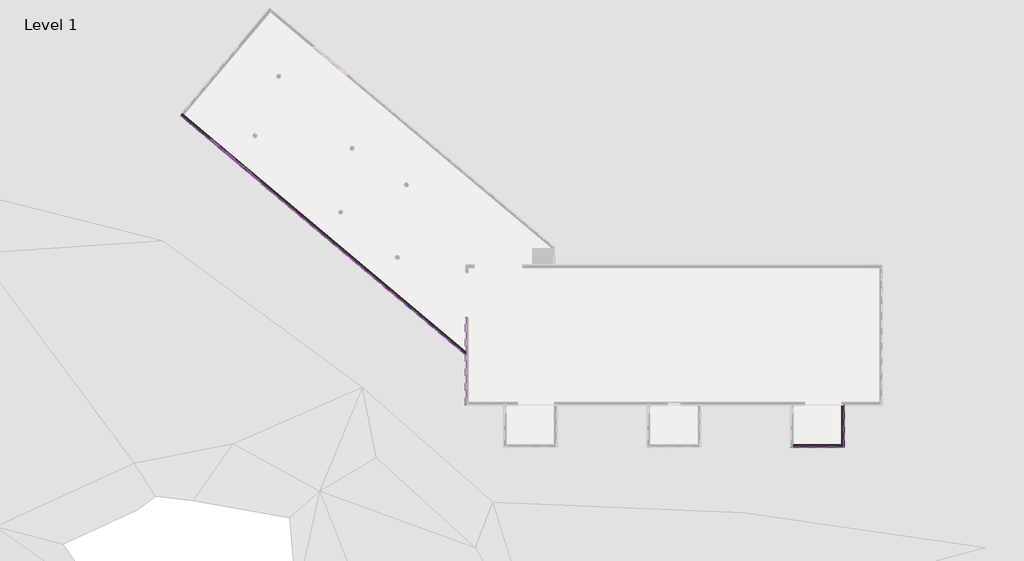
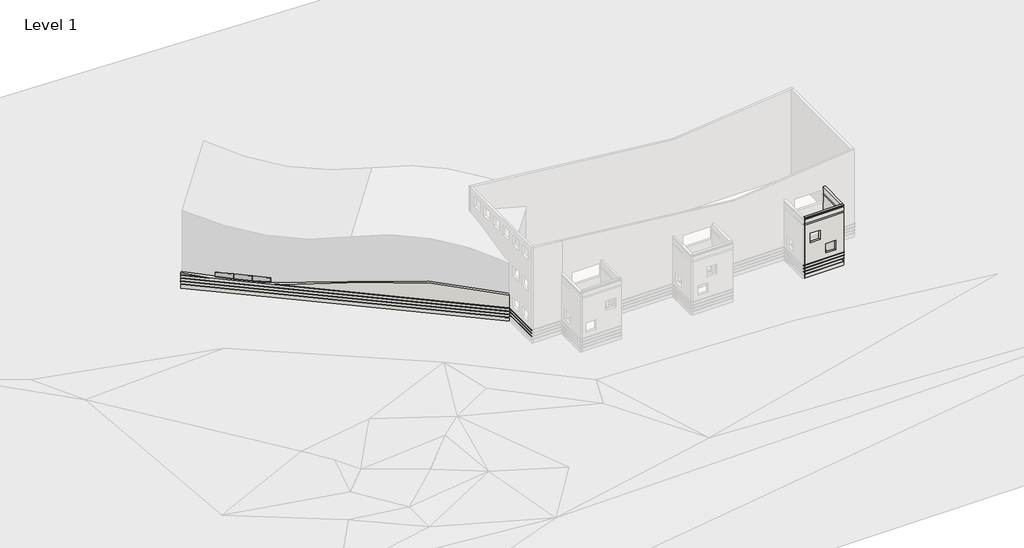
# One storey, part 3 of 6: 12 proxies, 5 members, 3 plates, 3 walls.
"""IFC4 building model written with IfcOpenShell, lengths in millimetres."""

from ifc_helpers import new_model, si_unit, frame, origin, place, context, project, spatial, polyline, circle_curve, ellipse_curve, outline, extrude, faceted_brep, transform, mapped, element, save
from ifc_brep_helpers import plane_surface, cylinder_surface, revolved_surface, advanced_brep
from components import member_a296c6ee, member_3cb31c08, member_20368c7e, member_728934ac, member_046d3a24, system_panel_glazed_c666a364, system_panel_glazed_ca24624d, system_panel_glazed_4385c969

model = new_model("IFC4")

# Units and contexts
model_context = context("Model", 3, world=origin())
ifc_project = project(units=[si_unit("LENGTHUNIT", "METRE", prefix="MILLI")], contexts=[model_context])

# Site, building, storey
site = spatial("IfcSite", under=ifc_project)
building = spatial("IfcBuilding", under=site)
storey = spatial("IfcBuildingStorey", under=building, Name="Level 1", Elevation=0.0)

# Proxies
placement = place(None, origin())
element("IfcBuildingElementProxy", 1, Name="Reveals", at=placement, inside=storey, context=model_context, shape_type="SweptSolid", body=[
    extrude(outline(polyline([(-18104.1386573, -9404.5629393), (-18196.2136573, -9496.6379393), (-18196.2136573, 3243.0495607), (-18104.1386573, 3243.0495607), (-18104.1386573, -9404.5629393)])), frame((0.0, 0.0, 1625.6), z_axis=(0.0, 0.0, 1.0), x_axis=(1.0, 0.0, 0.0)), (0.0, 0.0, 1.0), 67.7333333),
    extrude(outline(polyline([(-18104.1386573, 9643.8495607), (-18196.2136573, 9643.8495607), (-18196.2136573, 10801.1370607), (-18104.1386573, 10709.0620607), (-18104.1386573, 9643.8495607)])), frame((0.0, 0.0, 1625.6), z_axis=(0.0, 0.0, 1.0), x_axis=(1.0, 0.0, 0.0)), (0.0, 0.0, 1.0), 67.7333333),
])
element("IfcBuildingElementProxy", 2, Name="Reveals", at=placement, inside=storey, context=model_context, shape_type="SweptSolid", body=[
    extrude(outline(polyline([(-18104.1386573, -9404.5629393), (-18196.2136573, -9496.6379393), (-18196.2136573, 3243.0495607), (-18104.1386573, 3243.0495607), (-18104.1386573, -9404.5629393)])), frame((0.0, 0.0, 2235.2), z_axis=(0.0, 0.0, 1.0), x_axis=(1.0, 0.0, 0.0)), (0.0, 0.0, 1.0), 67.7333333),
    extrude(outline(polyline([(-18104.1386573, 9643.8495607), (-18196.2136573, 9643.8495607), (-18196.2136573, 10801.1370607), (-18104.1386573, 10709.0620607), (-18104.1386573, 9643.8495607)])), frame((0.0, 0.0, 2235.2), z_axis=(0.0, 0.0, 1.0), x_axis=(1.0, 0.0, 0.0)), (0.0, 0.0, 1.0), 67.7333333),
])
element("IfcBuildingElementProxy", 3, Name="Reveals", at=placement, inside=storey, context=model_context, shape_type="SweptSolid", body=[
    extrude(outline(polyline([(-18104.1386573, -9404.5629393), (-18196.2136573, -9496.6379393), (-18196.2136573, 3243.0495607), (-18104.1386573, 3243.0495607), (-18104.1386573, -9404.5629393)])), frame((0.0, 0.0, 2844.8), z_axis=(0.0, 0.0, 1.0), x_axis=(1.0, 0.0, 0.0)), (0.0, 0.0, 1.0), 67.7333333),
    extrude(outline(polyline([(-18104.1386573, 9643.8495607), (-18196.2136573, 9643.8495607), (-18196.2136573, 10801.1370607), (-18104.1386573, 10709.0620607), (-18104.1386573, 9643.8495607)])), frame((0.0, 0.0, 2844.8), z_axis=(0.0, 0.0, 1.0), x_axis=(1.0, 0.0, 0.0)), (0.0, 0.0, 1.0), 67.7333333),
])
element("IfcBuildingElementProxy", 4, Name="Reveals", at=placement, inside=storey, context=model_context, shape_type="SweptSolid", body=[
    extrude(outline(polyline([(28742.9863427, -15592.6379393), (28835.0613427, -15500.5629393), (36451.8863427, -15500.5629393), (36543.9613427, -15592.6379393), (28742.9863427, -15592.6379393)])), frame((0.0, 0.0, 1625.6), z_axis=(0.0, 0.0, 1.0), x_axis=(1.0, 0.0, 0.0)), (0.0, 0.0, 1.0), 67.7333333),
])
element("IfcBuildingElementProxy", 5, Name="Reveals", at=placement, inside=storey, context=model_context, shape_type="SweptSolid", body=[
    extrude(outline(polyline([(28742.9863427, -15592.6379393), (28835.0613427, -15500.5629393), (36451.8863427, -15500.5629393), (36543.9613427, -15592.6379393), (28742.9863427, -15592.6379393)])), frame((0.0, 0.0, 2235.2), z_axis=(0.0, 0.0, 1.0), x_axis=(1.0, 0.0, 0.0)), (0.0, 0.0, 1.0), 67.7333333),
])
element("IfcBuildingElementProxy", 6, Name="Reveals", at=placement, inside=storey, context=model_context, shape_type="SweptSolid", body=[
    extrude(outline(polyline([(28742.9863427, -15592.6379393), (28835.0613427, -15500.5629393), (36451.8863427, -15500.5629393), (36543.9613427, -15592.6379393), (28742.9863427, -15592.6379393)])), frame((0.0, 0.0, 2844.8), z_axis=(0.0, 0.0, 1.0), x_axis=(1.0, 0.0, 0.0)), (0.0, 0.0, 1.0), 67.7333333),
])
element("IfcBuildingElementProxy", 7, Name="Reveals", at=placement, inside=storey, context=model_context, shape_type="SweptSolid", body=[
    extrude(outline(polyline([(36543.9613427, -15592.6379393), (36451.8863427, -15500.5629393), (36451.8863427, -9429.9629393), (36543.9613427, -9429.9629393), (36543.9613427, -15592.6379393)])), frame((0.0, 0.0, 1625.6), z_axis=(0.0, 0.0, 1.0), x_axis=(1.0, 0.0, 0.0)), (0.0, 0.0, 1.0), 67.7333333),
])
element("IfcBuildingElementProxy", 8, Name="Reveals", at=placement, inside=storey, context=model_context, shape_type="SweptSolid", body=[
    extrude(outline(polyline([(36543.9613427, -15592.6379393), (36451.8863427, -15500.5629393), (36451.8863427, -9429.9629393), (36543.9613427, -9429.9629393), (36543.9613427, -15592.6379393)])), frame((0.0, 0.0, 2235.2), z_axis=(0.0, 0.0, 1.0), x_axis=(1.0, 0.0, 0.0)), (0.0, 0.0, 1.0), 67.7333333),
])
element("IfcBuildingElementProxy", 9, Name="Reveals", at=placement, inside=storey, context=model_context, shape_type="SweptSolid", body=[
    extrude(outline(polyline([(36543.9613427, -15592.6379393), (36451.8863427, -15500.5629393), (36451.8863427, -9429.9629393), (36543.9613427, -9429.9629393), (36543.9613427, -15592.6379393)])), frame((0.0, 0.0, 2844.8), z_axis=(0.0, 0.0, 1.0), x_axis=(1.0, 0.0, 0.0)), (0.0, 0.0, 1.0), 67.7333333),
])
element("IfcBuildingElementProxy", 10, Name="Reveals", at=placement, inside=storey, context=model_context, shape_type="SweptSolid", body=[
    extrude(outline(polyline([(-59471.3107285, 32380.2258286), (-59341.5925172, 32391.5747015), (-18113.211852, -2203.1443087), (-18172.3965212, -2273.6778508), (-59471.3107285, 32380.2258286)])), frame((0.0, 0.0, 1625.6), z_axis=(0.0, 0.0, 1.0), x_axis=(1.0, 0.0, 0.0)), (0.0, 0.0, 1.0), 67.7333333),
])
element("IfcBuildingElementProxy", 11, Name="Reveals", at=placement, inside=storey, context=model_context, shape_type="SweptSolid", body=[
    extrude(outline(polyline([(-59471.3107285, 32380.2258286), (-59341.5925172, 32391.5747015), (-18113.211852, -2203.1443087), (-18172.3965212, -2273.6778508), (-59471.3107285, 32380.2258286)])), frame((0.0, 0.0, 2235.2), z_axis=(0.0, 0.0, 1.0), x_axis=(1.0, 0.0, 0.0)), (0.0, 0.0, 1.0), 67.7333333),
])
element("IfcBuildingElementProxy", 12, Name="Reveals", at=placement, inside=storey, context=model_context, shape_type="SweptSolid", body=[
    extrude(outline(polyline([(-47637.676007, 22450.6272983), (-47578.4913379, 22521.1608404), (-18113.211852, -2203.1443087), (-18172.3965212, -2273.6778508), (-47637.676007, 22450.6272983)])), frame((0.0, 0.0, 2844.8), z_axis=(0.0, 0.0, 1.0), x_axis=(1.0, 0.0, 0.0)), (0.0, 0.0, 1.0), 67.7333333),
    extrude(outline(polyline([(-59471.3107285, 32380.2258286), (-59341.5925172, 32391.5747015), (-55808.9773834, 29427.3586456), (-55868.1620526, 29356.8251035), (-59471.3107285, 32380.2258286)])), frame((0.0, 0.0, 2844.8), z_axis=(0.0, 0.0, 1.0), x_axis=(1.0, 0.0, 0.0)), (0.0, 0.0, 1.0), 67.7333333),
])

# Members
member_shape = member_a296c6ee(model_context)
element("IfcMember", 13, ObjectType="Rectangular Mullion : 1.5\" x 2.5\" rectangular", at=placement, inside=storey, context=model_context, shape_type="MappedRepresentation", body=[
    mapped(member_shape, transform((-50290.4290331, 25018.486506, 3999.9444177), x_axis=(-0.76604444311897, 0.6427876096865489, 0.0), y_axis=(-0.6427876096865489, -0.76604444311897, 0.0), z_axis=(0.0, 0.0, 1.0))),
])
member_2_shape = member_3cb31c08(model_context)
element("IfcMember", 14, ObjectType="Rectangular Mullion : 1.5\" x 2.5\" rectangular", at=placement, inside=storey, context=model_context, shape_type="MappedRepresentation", body=[
    mapped(member_2_shape, transform((-52625.3324958, 26977.7031403, 3999.9444177), x_axis=(-0.76604444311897, 0.6427876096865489, 0.0), y_axis=(-0.6427876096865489, -0.76604444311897, 0.0), z_axis=(0.0, 0.0, 1.0))),
])
member_3_shape = member_20368c7e(model_context)
element("IfcMember", 15, ObjectType="Rectangular Mullion : 2.5\" x 5\" rectangular", at=placement, inside=storey, context=model_context, shape_type="MappedRepresentation", body=[
    mapped(member_3_shape, transform((-50290.4290331, 25018.486506, 2983.2122272), x_axis=(0.03160132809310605, -0.026516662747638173, -0.9991487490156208), y_axis=(-0.6427876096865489, -0.76604444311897, 0.0), z_axis=(-0.7653923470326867, 0.6422404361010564, -0.04125260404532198))),
])
member_4_shape = member_728934ac(model_context)
element("IfcMember", 16, ObjectType="Rectangular Mullion : 2.5\" x 5\" rectangular", at=placement, inside=storey, context=model_context, shape_type="MappedRepresentation", body=[
    mapped(member_4_shape, transform((-52625.3324958, 26977.7031403, 2976.7419634), x_axis=(0.0016261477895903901, -0.00136450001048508, -0.9999977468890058), y_axis=(-0.6427876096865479, -0.7660444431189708, 0.0), z_axis=(-0.766042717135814, 0.6427861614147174, -0.00212278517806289))),
])
member_5_shape = member_046d3a24(model_context)
element("IfcMember", 17, ObjectType="Rectangular Mullion : 2.5\" x 5\" rectangular", at=placement, inside=storey, context=model_context, shape_type="MappedRepresentation", body=[
    mapped(member_5_shape, transform((-54960.2359584, 28936.9197746, 3089.6167012), x_axis=(-0.028349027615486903, 0.023787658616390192, -0.9993150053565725), y_axis=(-0.6427876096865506, -0.7660444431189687, 0.0), z_axis=(-0.7655197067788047, 0.6423473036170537, 0.03700702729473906))),
])

# Plates
system_panel_glazed_shape = system_panel_glazed_c666a364(model_context)
element("IfcPlate", 18, ObjectType="System Panel : Glazed", at=placement, inside=storey, context=model_context, shape_type="MappedRepresentation", body=[
    mapped(system_panel_glazed_shape, transform((-49122.9773018, 24038.8781888, 3047.5528594), x_axis=(-0.76604444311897, 0.6427876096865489, 0.0), y_axis=(-0.6427876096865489, -0.76604444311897, 0.0), z_axis=(0.0, 0.0, 1.0))),
])
system_panel_glazed_2_shape = system_panel_glazed_ca24624d(model_context)
element("IfcPlate", 19, ObjectType="System Panel : Glazed", at=placement, inside=storey, context=model_context, shape_type="MappedRepresentation", body=[
    mapped(system_panel_glazed_2_shape, transform((-51457.8807644, 25998.0948231, 3040.2825456), x_axis=(-0.76604444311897, 0.6427876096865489, 0.0), y_axis=(-0.6427876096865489, -0.76604444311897, 0.0), z_axis=(0.0, 0.0, 1.0))),
])
system_panel_glazed_3_shape = system_panel_glazed_4385c969(model_context)
element("IfcPlate", 20, ObjectType="System Panel : Glazed", at=placement, inside=storey, context=model_context, shape_type="MappedRepresentation", body=[
    mapped(system_panel_glazed_3_shape, transform((-53792.7842271, 27957.3114575, 3040.9909575), x_axis=(-0.76604444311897, 0.6427876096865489, 0.0), y_axis=(-0.6427876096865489, -0.76604444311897, 0.0), z_axis=(0.0, 0.0, 1.0))),
])

# Walls
element("IfcWall", 21, ObjectType="Exterior - Brick and CMU on MTL. Stud", at=placement, inside=storey, context=model_context, shape_type="Brep", body=[
    faceted_brep([(36477.2863427, -15525.9629393, 12192.0), (29162.0863427, -15525.9629393, 12192.0), (29162.0863427, -15525.9629393, 11988.8), (36477.2863427, -15525.9629393, 11988.8), (36477.2863427, -15525.9629393, 11785.6), (29162.0863427, -15525.9629393, 11785.6), (29162.0863427, -15525.9629393, 11017.5344776), (36477.2863427, -15525.9629393, 11017.5344776), (29162.0863427, -15173.5379393, 12192.0), (36124.8613427, -15173.5379393, 12192.0), (36477.2863427, -15173.5379393, 12192.0), (36477.2863427, -15173.5379393, 11988.8), (36385.2113427, -15173.5379393, 11988.8), (36385.2113427, -15173.5379393, 11785.6), (36477.2863427, -15173.5379393, 11785.6), (36477.2863427, -15173.5379393, 11017.5344776), (36124.8613427, -15173.5379393, 11017.5344776), (29162.0863427, -15173.5379393, 11017.5344776), (29162.0863427, -15433.8879393, 11785.6), (29162.0863427, -15433.8879393, 11988.8), (36385.2113427, -15433.8879393, 11988.8), (36385.2113427, -15433.8879393, 11785.6)], [[[0, 1, 2, 3]], [[4, 5, 6, 7]], [[8, 9, 10, 11, 12, 13, 14, 15, 16, 17]], [[1, 0, 10, 9, 8]], [[10, 0, 3, 11]], [[14, 4, 7, 15]], [[1, 8, 17, 6, 5, 18, 19, 2]], [[19, 20, 12, 11, 3, 2]], [[13, 21, 18, 5, 4, 14]], [[21, 20, 19, 18]], [[20, 21, 13, 12]], [[7, 6, 17, 16, 15]]]),
    faceted_brep([(29162.0863427, -15525.9629393, 0.0), (36477.2863427, -15525.9629393, 0.0), (36477.2863427, -15525.9629393, 1016.0), (29162.0863427, -15525.9629393, 1016.0), (29162.0863427, -15525.9629393, 1085.85), (36477.2863427, -15525.9629393, 1085.85), (36477.2863427, -15525.9629393, 1625.6), (29162.0863427, -15525.9629393, 1625.6), (36477.2863427, -15525.9629393, 2844.8), (29162.0863427, -15525.9629393, 2844.8), (29162.0863427, -15525.9629393, 2302.9333333), (36477.2863427, -15525.9629393, 2302.9333333), (29162.0863427, -15525.9629393, 2912.5333333), (36477.2863427, -15525.9629393, 2912.5333333), (36477.2863427, -15525.9629393, 10712.7344776), (29162.0863427, -15525.9629393, 10712.7344776), (33100.6738427, -15525.9629393, 3875.2335849), (33100.6738427, -15525.9629393, 5704.0335849), (34929.4738427, -15525.9629393, 5704.0335849), (34929.4738427, -15525.9629393, 3875.2335849), (30205.0738427, -15525.9629393, 6923.2335849), (30205.0738427, -15525.9629393, 8752.0335849), (32033.8738427, -15525.9629393, 8752.0335849), (32033.8738427, -15525.9629393, 6923.2335849), (36477.2863427, -15525.9629393, 2235.2), (29162.0863427, -15525.9629393, 2235.2), (29162.0863427, -15525.9629393, 1693.3333333), (36477.2863427, -15525.9629393, 1693.3333333), (36477.2863427, -15173.5379393, 0.0), (36124.8613427, -15173.5379393, 0.0), (29162.0863427, -15173.5379393, 0.0), (29162.0863427, -15173.5379393, 10712.7344776), (36124.8613427, -15173.5379393, 10712.7344776), (36477.2863427, -15173.5379393, 10712.7344776), (36477.2863427, -15173.5379393, 2912.5333333), (36451.8863427, -15173.5379393, 2912.5333333), (36451.8863427, -15173.5379393, 2844.8), (36477.2863427, -15173.5379393, 2844.8), (36477.2863427, -15173.5379393, 2302.9333333), (36451.8863427, -15173.5379393, 2302.9333333), (36451.8863427, -15173.5379393, 2235.2), (36477.2863427, -15173.5379393, 2235.2), (36477.2863427, -15173.5379393, 1693.3333333), (36451.8863427, -15173.5379393, 1693.3333333), (36451.8863427, -15173.5379393, 1625.6), (36477.2863427, -15173.5379393, 1625.6), (36477.2863427, -15173.5379393, 1085.85), (36385.2113427, -15173.5379393, 1085.85), (36385.2113427, -15173.5379393, 1016.0), (36477.2863427, -15173.5379393, 1016.0), (33100.6738427, -15173.5379393, 5704.0335849), (33100.6738427, -15173.5379393, 3875.2335849), (34929.4738427, -15173.5379393, 3875.2335849), (34929.4738427, -15173.5379393, 5704.0335849), (30205.0738427, -15173.5379393, 8752.0335849), (30205.0738427, -15173.5379393, 6923.2335849), (32033.8738427, -15173.5379393, 6923.2335849), (32033.8738427, -15173.5379393, 8752.0335849), (36477.2863427, -15433.8879393, 0.0), (29162.0863427, -15433.8879393, 0.0), (29162.0863427, -15433.8879393, 1016.0), (29162.0863427, -15433.8879393, 1085.85), (29162.0863427, -15500.5629393, 1625.6), (29162.0863427, -15500.5629393, 1693.3333333), (29162.0863427, -15500.5629393, 2235.2), (29162.0863427, -15500.5629393, 2302.9333333), (29162.0863427, -15500.5629393, 2844.8), (29162.0863427, -15500.5629393, 2912.5333333), (36385.2113427, -15433.8879393, 1016.0), (36385.2113427, -15433.8879393, 1085.85), (36451.8863427, -15500.5629393, 2844.8), (36451.8863427, -15500.5629393, 2912.5333333), (36451.8863427, -15500.5629393, 2235.2), (36451.8863427, -15500.5629393, 2302.9333333), (36451.8863427, -15500.5629393, 1625.6), (36451.8863427, -15500.5629393, 1693.3333333)], [[[0, 1, 2, 3]], [[4, 5, 6, 7]], [[8, 9, 10, 11]], [[12, 13, 14, 15], [16, 17, 18, 19], [20, 21, 22, 23]], [[24, 25, 26, 27]], [[28, 29, 30, 31, 32, 33, 34, 35, 36, 37, 38, 39, 40, 41, 42, 43, 44, 45, 46, 47, 48, 49], [50, 51, 52, 53], [54, 55, 56, 57]], [[30, 29, 28, 58, 59]], [[1, 0, 59, 58]], [[58, 28, 49, 2, 1]], [[5, 46, 45, 6]], [[37, 8, 11, 38]], [[13, 34, 33, 14]], [[41, 24, 27, 42]], [[30, 59, 0, 3, 60, 61, 4, 7, 62, 63, 26, 25, 64, 65, 10, 9, 66, 67, 12, 15, 31]], [[51, 50, 17, 16]], [[52, 51, 16, 19]], [[53, 52, 19, 18]], [[50, 53, 18, 17]], [[55, 54, 21, 20]], [[56, 55, 20, 23]], [[57, 56, 23, 22]], [[54, 57, 22, 21]], [[48, 68, 60, 3, 2, 49]], [[61, 69, 47, 46, 5, 4]], [[68, 69, 61, 60]], [[69, 68, 48, 47]], [[36, 70, 66, 9, 8, 37]], [[67, 71, 35, 34, 13, 12]], [[70, 71, 67, 66]], [[71, 70, 36, 35]], [[40, 72, 64, 25, 24, 41]], [[65, 73, 39, 38, 11, 10]], [[72, 73, 65, 64]], [[73, 72, 40, 39]], [[44, 74, 62, 7, 6, 45]], [[63, 75, 43, 42, 27, 26]], [[74, 75, 63, 62]], [[75, 74, 44, 43]], [[15, 14, 33, 32, 31]]]),
])
element("IfcWall", 22, ObjectType="Exterior - Brick and CMU on MTL. Stud", at=placement, inside=storey, context=model_context, shape_type="Brep", body=[
    faceted_brep([(36477.2863427, -9429.9629393, 12192.0), (36477.2863427, -15173.5379393, 12192.0), (36477.2863427, -15173.5379393, 11988.8), (36477.2863427, -9429.9629393, 11988.8), (36477.2863427, -9429.9629393, 11785.6), (36477.2863427, -15173.5379393, 11785.6), (36477.2863427, -15173.5379393, 11017.5344776), (36477.2863427, -9429.9629393, 11017.5344776), (36124.8613427, -15173.5379393, 12192.0), (36124.8613427, -9429.9629393, 12192.0), (36124.8613427, -9429.9629393, 11582.4), (36124.8613427, -9429.9629393, 11017.5344776), (36124.8613427, -15173.5379393, 11017.5344776), (36385.2113427, -9429.9629393, 11988.8), (36385.2113427, -9429.9629393, 11785.6), (36385.2113427, -15173.5379393, 11785.6), (36385.2113427, -15173.5379393, 11988.8)], [[[0, 1, 2, 3]], [[4, 5, 6, 7]], [[8, 9, 10, 11, 12]], [[1, 0, 9, 8]], [[9, 0, 3, 13, 14, 4, 7, 11, 10]], [[1, 8, 12, 6, 5, 15, 16, 2]], [[16, 13, 3, 2]], [[14, 15, 5, 4]], [[15, 14, 13, 16]], [[7, 6, 12, 11]]]),
    faceted_brep([(36477.2863427, -15173.5379393, 0.0), (36477.2863427, -9429.9629393, 0.0), (36477.2863427, -9429.9629393, 1016.0), (36477.2863427, -15173.5379393, 1016.0), (36477.2863427, -15173.5379393, 1085.85), (36477.2863427, -9429.9629393, 1085.85), (36477.2863427, -9429.9629393, 1625.6), (36477.2863427, -15173.5379393, 1625.6), (36477.2863427, -9429.9629393, 2844.8), (36477.2863427, -15173.5379393, 2844.8), (36477.2863427, -15173.5379393, 2302.9333333), (36477.2863427, -9429.9629393, 2302.9333333), (36477.2863427, -15173.5379393, 2912.5333333), (36477.2863427, -9429.9629393, 2912.5333333), (36477.2863427, -9429.9629393, 10712.7344776), (36477.2863427, -15173.5379393, 10712.7344776), (36477.2863427, -11235.8448697, 5791.2), (36477.2863427, -11235.8448697, 3962.4), (36477.2863427, -13064.6448697, 3962.4), (36477.2863427, -13064.6448697, 5791.2), (36477.2863427, -9429.9629393, 2235.2), (36477.2863427, -15173.5379393, 2235.2), (36477.2863427, -15173.5379393, 1693.3333333), (36477.2863427, -9429.9629393, 1693.3333333), (36124.8613427, -9429.9629393, 0.0), (36124.8613427, -15173.5379393, 0.0), (36124.8613427, -15173.5379393, 10712.7344776), (36124.8613427, -9429.9629393, 10712.7344776), (36124.8613427, -9429.9629393, 9144.0), (36124.8613427, -9429.9629393, 5486.4), (36124.8613427, -9429.9629393, 3048.0), (36124.8613427, -9429.9629393, 2438.4), (36124.8613427, -9429.9629393, 2302.9333333), (36124.8613427, -9429.9629393, 2235.2), (36124.8613427, -9429.9629393, 1693.3333333), (36124.8613427, -9429.9629393, 1625.6), (36124.8613427, -9429.9629393, 1085.85), (36124.8613427, -9429.9629393, 1016.0), (36124.8613427, -11235.8448697, 3962.4), (36124.8613427, -11235.8448697, 5791.2), (36124.8613427, -13064.6448697, 5791.2), (36124.8613427, -13064.6448697, 3962.4), (36385.2113427, -9429.9629393, 0.0), (36385.2113427, -15173.5379393, 0.0), (36451.8863427, -9429.9629393, 2912.5333333), (36451.8863427, -9429.9629393, 2844.8), (36451.8863427, -9429.9629393, 2302.9333333), (36451.8863427, -9429.9629393, 2235.2), (36451.8863427, -9429.9629393, 1693.3333333), (36451.8863427, -9429.9629393, 1625.6), (36385.2113427, -9429.9629393, 1085.85), (36385.2113427, -9429.9629393, 1016.0), (36385.2113427, -15173.5379393, 1016.0), (36385.2113427, -15173.5379393, 1085.85), (36451.8863427, -15173.5379393, 1625.6), (36451.8863427, -15173.5379393, 1693.3333333), (36451.8863427, -15173.5379393, 2235.2), (36451.8863427, -15173.5379393, 2302.9333333), (36451.8863427, -15173.5379393, 2844.8), (36451.8863427, -15173.5379393, 2912.5333333)], [[[0, 1, 2, 3]], [[4, 5, 6, 7]], [[8, 9, 10, 11]], [[12, 13, 14, 15], [16, 17, 18, 19]], [[20, 21, 22, 23]], [[24, 25, 26, 27, 28, 29, 30, 31, 32, 33, 34, 35, 36, 37], [38, 39, 40, 41]], [[25, 24, 42, 43]], [[1, 0, 43, 42]], [[42, 24, 37, 36, 35, 34, 33, 32, 31, 30, 29, 28, 27, 14, 13, 44, 45, 8, 11, 46, 47, 20, 23, 48, 49, 6, 5, 50, 51, 2, 1]], [[25, 43, 0, 3, 52, 53, 4, 7, 54, 55, 22, 21, 56, 57, 10, 9, 58, 59, 12, 15, 26]], [[17, 16, 39, 38]], [[18, 17, 38, 41]], [[19, 18, 41, 40]], [[16, 19, 40, 39]], [[51, 52, 3, 2]], [[53, 50, 5, 4]], [[52, 51, 50, 53]], [[45, 58, 9, 8]], [[59, 44, 13, 12]], [[58, 45, 44, 59]], [[47, 56, 21, 20]], [[57, 46, 11, 10]], [[56, 47, 46, 57]], [[49, 54, 7, 6]], [[55, 48, 23, 22]], [[54, 49, 48, 55]], [[15, 14, 27, 26]]]),
])
element("IfcWall", 23, ObjectType="Exterior - Brick and CMU on MTL. Stud", at=placement, inside=storey, context=model_context, shape_type="AdvancedBrep", body=[
    advanced_brep(
    [(-18129.5386573, -2222.6018375, 5438.174734), (-38467.8195554, 14843.2421628, 4594.2989975), (-46900.1232488, 21918.785082, 2912.5333333), (-18129.5386573, -2222.6018375, 2912.5333333), (-59377.3768514, 32388.443978, 0.0), (-18129.5386573, -2222.6018375, 0.0), (-18129.5386573, -2222.6018375, 1016.0), (-59377.3768514, 32388.443978, 1016.0), (-59377.3768514, 32388.443978, 1693.3333333), (-18129.5386573, -2222.6018375, 1693.3333333), (-18129.5386573, -2222.6018375, 2235.2), (-59377.3768514, 32388.443978, 2235.2), (-18129.5386573, -2222.6018375, 1625.6), (-59377.3768514, 32388.443978, 1625.6), (-59377.3768514, 32388.443978, 1085.85), (-18129.5386573, -2222.6018375, 1085.85), (-59377.3768514, 32388.443978, 2302.9333333), (-18129.5386573, -2222.6018375, 2302.9333333), (-18129.5386573, -2222.6018375, 2844.8), (-47594.8181432, 22501.7033116, 2844.8), (-55825.3041887, 29407.9011168, 2844.8), (-59377.3768514, 32388.443978, 2844.8), (-56519.999083, 29990.8193464, 2912.5333333), (-59377.3768514, 32388.443978, 3303.154665), (-59377.3768514, 32388.443978, 2912.5333333), (-18129.5386573, -1762.5436736, 0.0), (-58880.8692152, 32431.8827675, 0.0), (-59150.842428, 32658.4171908, 0.0), (-59150.842428, 32658.4171908, 1016.0), (-59080.3088859, 32599.2325217, 1016.0), (-59080.3088859, 32599.2325217, 1085.85), (-59150.842428, 32658.4171908, 1085.85), (-59150.842428, 32658.4171908, 1625.6), (-59131.3848992, 32642.0903855, 1625.6), (-59131.3848992, 32642.0903855, 1693.3333333), (-59150.842428, 32658.4171908, 1693.3333333), (-59150.842428, 32658.4171908, 2235.2), (-59131.3848992, 32642.0903855, 2235.2), (-59131.3848992, 32642.0903855, 2302.9333333), (-59150.842428, 32658.4171908, 2302.9333333), (-59150.842428, 32658.4171908, 2844.8), (-59131.3848992, 32642.0903855, 2844.8), (-59131.3848992, 32642.0903855, 2912.5333333), (-59150.842428, 32658.4171908, 2912.5333333), (-59150.842428, 32658.4171908, 3303.154665), (-58880.8618052, 32431.8765498, 3258.4937637), (-38241.285132, 15113.2153757, 4594.2989975), (-18129.5386573, -1762.5436736, 5485.0383693), (-59318.1921822, 32458.9775201, 0.0), (-18129.5386573, -2189.4444924, 2912.5333333), (-18129.5386573, -2189.4444924, 2844.8), (-18129.5386573, -2189.4444924, 2302.9333333), (-18129.5386573, -2189.4444924, 2235.2), (-18129.5386573, -2189.4444924, 1693.3333333), (-18129.5386573, -2189.4444924, 1625.6), (-18129.5386573, -2102.4064614, 1085.85), (-18129.5386573, -2102.4064614, 1016.0), (-18129.5386573, -2102.4064614, 0.0), (-18129.5386573, -1992.5727556, 0.0), (-56503.6722777, 30010.2768752, 2912.5333333), (-55808.9773834, 29427.3586456, 2844.8), (-47578.4913379, 22521.1608404, 2844.8), (-46883.7964436, 21938.2426108, 2912.5333333), (-59341.5925172, 32391.5747015, 1625.6), (-59341.5925172, 32391.5747015, 1693.3333333), (-59341.5925172, 32391.5747015, 2235.2), (-59341.5925172, 32391.5747015, 2302.9333333), (-59341.5925172, 32391.5747015, 2844.8), (-59341.5925172, 32391.5747015, 2912.5333333), (-59247.6586401, 32399.7928509, 1016.0), (-59247.6586401, 32399.7928509, 1085.85)],
    [
        (0, 1, circle_curve(frame((-26627.7653594, 4908.2570539, -63608.6813832), z_axis=(-0.6427876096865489, -0.76604444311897, 0.0), x_axis=(0.76604444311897, -0.6427876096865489, 0.0)), 69932.3769458)),
        (1, 2, circle_curve(frame((-51710.0611659, 25954.8022142, 80874.3843597), z_axis=(0.6427876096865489, 0.76604444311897, 0.0), x_axis=(0.76604444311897, -0.6427876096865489, 0.0)), 78214.2899509)),
        (2, 3),
        (3, 0),
        (4, 5),
        (5, 6),
        (6, 7),
        (7, 4),
        (8, 9),
        (9, 10),
        (10, 11),
        (11, 8),
        (12, 13),
        (13, 14),
        (14, 15),
        (15, 12),
        (16, 17),
        (17, 18),
        (18, 19),
        (19, 20, circle_curve(frame((-51710.0611659, 25954.8022142, 80874.3843597), z_axis=(0.6427876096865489, 0.76604444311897, 0.0), x_axis=(0.76604444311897, -0.6427876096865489, 0.0)), 78214.2899509)),
        (20, 21),
        (21, 16),
        (22, 23, circle_curve(frame((-51710.0611659, 25954.8022142, 80874.3843597), z_axis=(0.6427876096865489, 0.76604444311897, 0.0), x_axis=(0.76604444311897, -0.6427876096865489, 0.0)), 78214.2899509)),
        (23, 24),
        (24, 22),
        (25, 26),
        (26, 27),
        (27, 28),
        (28, 29),
        (29, 30),
        (30, 31),
        (31, 32),
        (32, 33),
        (33, 34),
        (34, 35),
        (35, 36),
        (36, 37),
        (37, 38),
        (38, 39),
        (39, 40),
        (40, 41),
        (41, 42),
        (42, 43),
        (43, 44),
        (44, 45, circle_curve(frame((-51483.5267426, 26224.775427, 80874.3843597), z_axis=(-0.6427876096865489, -0.76604444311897, 0.0), x_axis=(0.76604444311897, -0.6427876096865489, 0.0)), 78214.2899509)),
        (45, 46, circle_curve(frame((-51483.5267426, 26224.775427, 80874.3843597), z_axis=(-0.6427876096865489, -0.76604444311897, 0.0), x_axis=(0.76604444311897, -0.6427876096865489, 0.0)), 78214.2898925)),
        (46, 47, circle_curve(frame((-26401.2309361, 5178.2302667, -63608.6813832), z_axis=(0.6427876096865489, 0.76604444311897, 0.0), x_axis=(0.76604444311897, -0.6427876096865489, 0.0)), 69932.3769458)),
        (47, 25),
        (23, 44),
        (43, 24),
        (27, 48),
        (48, 4),
        (7, 28),
        (35, 8),
        (11, 36),
        (13, 32),
        (31, 14),
        (39, 16),
        (21, 40),
        (47, 0, ellipse_curve(frame((-18129.5386573, 15036.0492568, -63608.6813832), z_axis=(1.0, 0.0, 0.0), x_axis=(0.0, 1.0, 0.0)), 108795.4650836, 69932.3769458)),
        (3, 49),
        (49, 50),
        (50, 18),
        (17, 51),
        (51, 52),
        (52, 10),
        (9, 53),
        (53, 54),
        (54, 12),
        (15, 55),
        (55, 56),
        (56, 6),
        (5, 57),
        (57, 58),
        (58, 25),
        (22, 59),
        (59, 60, circle_curve(frame((-51693.7343606, 25974.259743, 80874.3843597), z_axis=(-0.6427876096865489, -0.76604444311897, 0.0), x_axis=(0.76604444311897, -0.6427876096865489, 0.0)), 78214.2899509)),
        (60, 20),
        (19, 61),
        (61, 62, circle_curve(frame((-51693.7343606, 25974.259743, 80874.3843597), z_axis=(-0.6427876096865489, -0.76604444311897, 0.0), x_axis=(0.76604444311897, -0.6427876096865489, 0.0)), 78214.2899509)),
        (62, 2),
        (1, 46),
        (57, 48),
        (63, 64),
        (64, 34),
        (33, 63),
        (54, 63),
        (64, 53),
        (65, 66),
        (66, 38),
        (37, 65),
        (52, 65),
        (66, 51),
        (49, 62),
        (61, 50),
        (67, 68),
        (68, 42),
        (41, 67),
        (60, 67),
        (68, 59),
        (69, 70),
        (70, 30),
        (29, 69),
        (56, 69),
        (70, 55),
    ],
    [
        plane_surface(frame((-59242.3902449, 32275.1767663, 0.0), z_axis=(-0.642787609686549, -0.76604444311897, 0.0), x_axis=(0.76604444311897, -0.642787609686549, 0.0))),
        plane_surface(frame((-59015.8558216, 32545.1499792, 0.0), z_axis=(0.642787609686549, 0.76604444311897, 0.0), x_axis=(-0.76604444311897, 0.642787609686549, 0.0))),
        plane_surface(frame((-46550.6304485, 47674.7650848, 0.0), z_axis=(-0.76604444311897, 0.642787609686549, 0.0), x_axis=(-0.642787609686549, -0.76604444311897, 0.0))),
        plane_surface(frame((-18129.5386573, 10070.7162579, 0.0), z_axis=(1.0, 0.0, 0.0), x_axis=(0.0, -1.0, 0.0))),
        revolved_surface(polyline([(8205.561023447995, -24320.374266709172, 80874.3843597), (8432.095446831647, -24050.401053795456, 80874.3843597)]), (-38770.0475514, 41376.1099275, 80874.3843597), (-0.6427876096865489, -0.76604444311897, 0.0)),
        cylinder_surface(frame((-13687.7517449, 20329.5647672, -63608.6813832), z_axis=(0.6427876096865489, 0.76604444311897, 0.0), x_axis=(0.76604444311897, -0.6427876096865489, 0.0)), 69932.3769458),
        plane_surface(frame((-59242.3902449, 32275.1767663, 0.0), z_axis=(0.0, 0.0, -1.0), x_axis=(0.6427876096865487, 0.7660444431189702, 0.0))),
        plane_surface(frame((0.0, 0.0, 0.0), z_axis=(0.0, 0.0, -1.0), x_axis=(1.0, 0.0, 0.0))),
        plane_surface(frame((-46417.905708, 47793.424886, 1693.3333333), z_axis=(-0.76604444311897, 0.6427876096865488, 0.0), x_axis=(-0.6427876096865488, -0.76604444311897, 0.0))),
        plane_surface(frame((-46417.905708, 47793.424886, 1625.6), z_axis=(0.0, 0.0, 1.0), x_axis=(-0.6427876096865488, -0.76604444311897, 0.0))),
        plane_surface(frame((-46488.4392501, 47852.6095552, 1693.3333333), z_axis=(0.0, 0.0, -1.0), x_axis=(-0.6427876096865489, -0.76604444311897, 0.0))),
        plane_surface(frame((-59341.5925172, 32391.5747015, 1693.3333333), z_axis=(-0.6427876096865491, -0.7660444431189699, 0.0), x_axis=(0.7660444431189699, -0.6427876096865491, 0.0))),
        plane_surface(frame((-46417.905708, 47793.424886, 2302.9333333), z_axis=(-0.76604444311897, 0.6427876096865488, 0.0), x_axis=(-0.6427876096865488, -0.76604444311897, 0.0))),
        plane_surface(frame((-46417.905708, 47793.424886, 2235.2), z_axis=(0.0, 0.0, 1.0), x_axis=(-0.6427876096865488, -0.76604444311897, 0.0))),
        plane_surface(frame((-46488.4392501, 47852.6095552, 2302.9333333), z_axis=(0.0, 0.0, -1.0), x_axis=(-0.6427876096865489, -0.76604444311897, 0.0))),
        plane_surface(frame((-59341.5925172, 32391.5747015, 2302.9333333), z_axis=(-0.642787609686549, -0.7660444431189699, 0.0), x_axis=(0.7660444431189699, -0.642787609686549, 0.0))),
        plane_surface(frame((-47578.4913379, 22521.1608404, 2912.5333333), z_axis=(-0.642787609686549, -0.7660444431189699, 0.0), x_axis=(0.7660444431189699, -0.642787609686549, 0.0))),
        plane_surface(frame((-47578.4913379, 22521.1608404, 2844.8), z_axis=(0.0, 0.0, 1.0), x_axis=(0.7660444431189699, -0.642787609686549, 0.0))),
        plane_surface(frame((-47637.676007, 22450.6272983, 2912.5333333), z_axis=(0.0, 0.0, -1.0000000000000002), x_axis=(0.7660444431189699, -0.6427876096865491, 0.0))),
        plane_surface(frame((-46417.905708, 47793.424886, 2912.5333333), z_axis=(-0.7660444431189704, 0.6427876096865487, 0.0), x_axis=(-0.6427876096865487, -0.7660444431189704, 0.0))),
        plane_surface(frame((-46417.905708, 47793.424886, 2844.8), z_axis=(0.0, 0.0, 1.0000000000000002), x_axis=(-0.6427876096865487, -0.7660444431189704, 0.0))),
        plane_surface(frame((-46488.4392501, 47852.6095552, 2912.5333333), z_axis=(0.0, 0.0, -1.0), x_axis=(-0.6427876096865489, -0.76604444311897, 0.0))),
        plane_surface(frame((-59341.5925172, 32391.5747015, 2912.5333333), z_axis=(-0.642787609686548, -0.7660444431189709, 0.0), x_axis=(0.7660444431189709, -0.642787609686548, 0.0))),
        plane_surface(frame((-46366.8296948, 47750.5670221, 1085.85), z_axis=(-0.7660444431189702, 0.6427876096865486, 0.0), x_axis=(-0.6427876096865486, -0.7660444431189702, 0.0))),
        plane_surface(frame((-46366.8296948, 47750.5670221, 1016.0), z_axis=(0.0, 0.0, 1.0), x_axis=(-0.642787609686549, -0.7660444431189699, 0.0))),
        plane_surface(frame((-46437.3632369, 47809.7516913, 1085.85), z_axis=(0.0, 0.0, -1.0), x_axis=(-0.6427876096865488, -0.76604444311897, 0.0))),
        plane_surface(frame((-59247.6586401, 32399.7928509, 1085.85), z_axis=(-0.642787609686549, -0.7660444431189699, 0.0), x_axis=(0.7660444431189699, -0.642787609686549, 0.0))),
    ],
    [
        (0, [[1, 2, 3, 4]]),
        (0, [[5, 6, 7, 8]]),
        (0, [[9, 10, 11, 12]]),
        (0, [[13, 14, 15, 16]]),
        (0, [[17, 18, 19, 20, 21, 22]]),
        (0, [[23, 24, 25]]),
        (1, [[26, 27, 28, 29, 30, 31, 32, 33, 34, 35, 36, 37, 38, 39, 40, 41, 42, 43, 44, 45, 46, 47, 48]]),
        (2, [[49, -44, 50, -24]]),
        (2, [[51, 52, -8, 53, -28]]),
        (2, [[54, -12, 55, -36]]),
        (2, [[56, -32, 57, -14]]),
        (2, [[58, -22, 59, -40]]),
        (3, [[-48, 60, -4, 61, 62, 63, -18, 64, 65, 66, -10, 67, 68, 69, -16, 70, 71, 72, -6, 73, 74, 75]]),
        (4, [[-49, -23, 76, 77, 78, -20, 79, 80, 81, -2, 82, -46, -45]]),
        (5, [[-60, -47, -82, -1]]),
        (6, [[-27, -26, -75, -74, 83, -51]]),
        (7, [[-5, -52, -83, -73]]),
        (8, [[84, 85, -34, 86]]),
        (9, [[87, -86, -33, -56, -13, -69]]),
        (10, [[88, -67, -9, -54, -35, -85]]),
        (11, [[-84, -87, -68, -88]]),
        (12, [[89, 90, -38, 91]]),
        (13, [[92, -91, -37, -55, -11, -66]]),
        (14, [[93, -64, -17, -58, -39, -90]]),
        (15, [[-89, -92, -65, -93]]),
        (16, [[94, -80, 95, -62]]),
        (17, [[-95, -79, -19, -63]]),
        (18, [[-94, -61, -3, -81]]),
        (19, [[96, 97, -42, 98]]),
        (20, [[99, -98, -41, -59, -21, -78]]),
        (21, [[100, -76, -25, -50, -43, -97]]),
        (22, [[-96, -99, -77, -100]]),
        (23, [[101, 102, -30, 103]]),
        (24, [[104, -103, -29, -53, -7, -72]]),
        (25, [[105, -70, -15, -57, -31, -102]]),
        (26, [[-101, -104, -71, -105]]),
    ],
),
])

save(model, "model.ifc")
